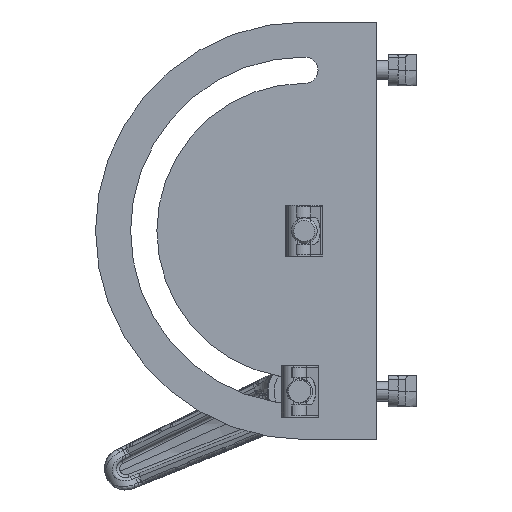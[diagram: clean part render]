
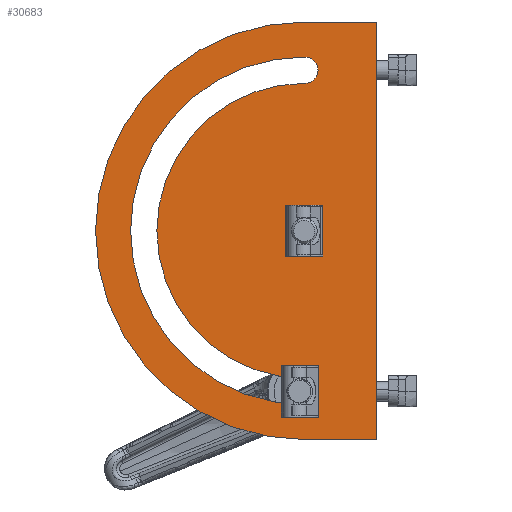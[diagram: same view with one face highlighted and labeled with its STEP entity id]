
A CAD part, left-side view. The second image highlights one B-rep face of the part: STEP entity #30683.
In plain terms, the highlighted planar face has unit normal (-1, 0, 0).
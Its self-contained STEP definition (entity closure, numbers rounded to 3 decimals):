
#241 = EDGE_LOOP ( 'NONE', ( #26651, #7934, #51856, #10890, #29301, #27723, #7183, #57430 ) ) ;
#1251 = DIRECTION ( 'NONE',  ( 0., 0., -1. ) ) ;
#1601 = VERTEX_POINT ( 'NONE', #54993 ) ;
#1749 = VERTEX_POINT ( 'NONE', #31968 ) ;
#2832 = DIRECTION ( 'NONE',  ( 1., 0., 0. ) ) ;
#3529 = EDGE_CURVE ( 'NONE', #1601, #27274, #15341, .T. ) ;
#3726 = VERTEX_POINT ( 'NONE', #17872 ) ;
#4543 = DIRECTION ( 'NONE',  ( 0., 0., -1. ) ) ;
#4611 = PLANE ( 'NONE',  #26990 ) ;
#4766 = CARTESIAN_POINT ( 'NONE',  ( 0., 22.5, 54.1 ) ) ;
#5023 = CARTESIAN_POINT ( 'NONE',  ( 0., 22.5, 0. ) ) ;
#5156 = EDGE_CURVE ( 'NONE', #39911, #1601, #35896, .T. ) ;
#5503 = ORIENTED_EDGE ( 'NONE', *, *, #48248, .F. ) ;
#5545 = DIRECTION ( 'NONE',  ( 0., 0., -1. ) ) ;
#5809 = ORIENTED_EDGE ( 'NONE', *, *, #10732, .T. ) ;
#5844 = CARTESIAN_POINT ( 'NONE',  ( 0., 22.348, 50. ) ) ;
#5990 = CARTESIAN_POINT ( 'NONE',  ( 0., 22.348, -50. ) ) ;
#6360 = DIRECTION ( 'NONE',  ( 0., 0., -1. ) ) ;
#7183 = ORIENTED_EDGE ( 'NONE', *, *, #51452, .T. ) ;
#7934 = ORIENTED_EDGE ( 'NONE', *, *, #5156, .T. ) ;
#8082 = EDGE_LOOP ( 'NONE', ( #5809, #10725 ) ) ;
#8404 = AXIS2_PLACEMENT_3D ( 'NONE', #19361, #54356, #9704 ) ;
#8599 = VECTOR ( 'NONE', #47073, 1000. ) ;
#8975 = CIRCLE ( 'NONE', #18285, 54.1 ) ;
#9187 = VERTEX_POINT ( 'NONE', #9725 ) ;
#9425 = VERTEX_POINT ( 'NONE', #53445 ) ;
#9704 = DIRECTION ( 'NONE',  ( 0., 0., -1. ) ) ;
#9725 = CARTESIAN_POINT ( 'NONE',  ( 0., 22.5, -4.05 ) ) ;
#10164 = DIRECTION ( 'NONE',  ( 1., 0., 0. ) ) ;
#10293 = VERTEX_POINT ( 'NONE', #4766 ) ;
#10544 = EDGE_CURVE ( 'NONE', #9425, #30922, #29275, .T. ) ;
#10725 = ORIENTED_EDGE ( 'NONE', *, *, #54726, .T. ) ;
#10732 = EDGE_CURVE ( 'NONE', #56826, #9187, #36598, .T. ) ;
#10890 = ORIENTED_EDGE ( 'NONE', *, *, #29027, .F. ) ;
#11771 = CARTESIAN_POINT ( 'NONE',  ( 0., 2.5, -65. ) ) ;
#11801 = CIRCLE ( 'NONE', #34151, 4.103 ) ;
#14537 = FACE_OUTER_BOUND ( 'NONE', #47975, .T. ) ;
#14584 = AXIS2_PLACEMENT_3D ( 'NONE', #55403, #19805, #6360 ) ;
#15288 = DIRECTION ( 'NONE',  ( 0., 0., -1. ) ) ;
#15341 = CIRCLE ( 'NONE', #35817, 4.103 ) ;
#16073 = AXIS2_PLACEMENT_3D ( 'NONE', #57257, #17000, #31260 ) ;
#17000 = DIRECTION ( 'NONE',  ( 1., 0., 0. ) ) ;
#17702 = AXIS2_PLACEMENT_3D ( 'NONE', #48923, #18568, #4543 ) ;
#17872 = CARTESIAN_POINT ( 'NONE',  ( 0., 22.5, -45.9 ) ) ;
#18285 = AXIS2_PLACEMENT_3D ( 'NONE', #28852, #2832, #25057 ) ;
#18568 = DIRECTION ( 'NONE',  ( 1., 0., 0. ) ) ;
#19153 = DIRECTION ( 'NONE',  ( 1., 0., 0. ) ) ;
#19361 = CARTESIAN_POINT ( 'NONE',  ( 0., 22.5, 0. ) ) ;
#19805 = DIRECTION ( 'NONE',  ( 1., 0., 0. ) ) ;
#20426 = VERTEX_POINT ( 'NONE', #42321 ) ;
#20759 = ORIENTED_EDGE ( 'NONE', *, *, #10544, .T. ) ;
#21783 = LINE ( 'NONE', #26182, #53708 ) ;
#21856 = CARTESIAN_POINT ( 'NONE',  ( 0., 22.5, -54.1 ) ) ;
#22598 = EDGE_CURVE ( 'NONE', #1749, #30922, #44219, .T. ) ;
#23452 = DIRECTION ( 'NONE',  ( 1., 0., 0. ) ) ;
#23677 = DIRECTION ( 'NONE',  ( 1., 0., 0. ) ) ;
#25021 = CIRCLE ( 'NONE', #50152, 4.05 ) ;
#25057 = DIRECTION ( 'NONE',  ( 0., 0., -1. ) ) ;
#26182 = CARTESIAN_POINT ( 'NONE',  ( 0., 2.5, 65. ) ) ;
#26651 = ORIENTED_EDGE ( 'NONE', *, *, #47987, .T. ) ;
#26990 = AXIS2_PLACEMENT_3D ( 'NONE', #50148, #10164, #40224 ) ;
#27274 = VERTEX_POINT ( 'NONE', #29422 ) ;
#27366 = AXIS2_PLACEMENT_3D ( 'NONE', #5023, #23452, #1251 ) ;
#27723 = ORIENTED_EDGE ( 'NONE', *, *, #30936, .T. ) ;
#27960 = CIRCLE ( 'NONE', #17702, 4.103 ) ;
#28852 = CARTESIAN_POINT ( 'NONE',  ( 0., 22.5, 0. ) ) ;
#29027 = EDGE_CURVE ( 'NONE', #3726, #27274, #35455, .T. ) ;
#29275 = LINE ( 'NONE', #11771, #8599 ) ;
#29301 = ORIENTED_EDGE ( 'NONE', *, *, #43648, .T. ) ;
#29422 = CARTESIAN_POINT ( 'NONE',  ( 0., 22.5, 45.9 ) ) ;
#29978 = EDGE_CURVE ( 'NONE', #9425, #34456, #49593, .T. ) ;
#30683 = ADVANCED_FACE ( 'NONE', ( #44603, #14537, #45776 ), #4611, .F. ) ;
#30739 = DIRECTION ( 'NONE',  ( 1., 0., 0. ) ) ;
#30922 = VERTEX_POINT ( 'NONE', #49780 ) ;
#30936 = EDGE_CURVE ( 'NONE', #50303, #20426, #27960, .T. ) ;
#31203 = CARTESIAN_POINT ( 'NONE',  ( 0., 22.5, 4.05 ) ) ;
#31260 = DIRECTION ( 'NONE',  ( 0., 0., -1. ) ) ;
#31968 = CARTESIAN_POINT ( 'NONE',  ( 0., 0., 65. ) ) ;
#32464 = CARTESIAN_POINT ( 'NONE',  ( 0., 22.348, -45.897 ) ) ;
#32747 = CARTESIAN_POINT ( 'NONE',  ( 0., 22.5, 65. ) ) ;
#34151 = AXIS2_PLACEMENT_3D ( 'NONE', #5990, #19153, #37233 ) ;
#34456 = VERTEX_POINT ( 'NONE', #32747 ) ;
#34953 = CIRCLE ( 'NONE', #47091, 4.103 ) ;
#35026 = CARTESIAN_POINT ( 'NONE',  ( 0., 22.348, 54.103 ) ) ;
#35117 = CARTESIAN_POINT ( 'NONE',  ( 0., 22.348, -50. ) ) ;
#35455 = CIRCLE ( 'NONE', #8404, 45.9 ) ;
#35462 = DIRECTION ( 'NONE',  ( 0., 0., -1. ) ) ;
#35817 = AXIS2_PLACEMENT_3D ( 'NONE', #54401, #50321, #15288 ) ;
#35896 = CIRCLE ( 'NONE', #55521, 4.103 ) ;
#36598 = CIRCLE ( 'NONE', #16073, 4.05 ) ;
#37233 = DIRECTION ( 'NONE',  ( 0., 0., -1. ) ) ;
#38440 = ORIENTED_EDGE ( 'NONE', *, *, #29978, .F. ) ;
#39911 = VERTEX_POINT ( 'NONE', #35026 ) ;
#40224 = DIRECTION ( 'NONE',  ( 0., 0., -1. ) ) ;
#41451 = DIRECTION ( 'NONE',  ( 0., 0., -1. ) ) ;
#41632 = CIRCLE ( 'NONE', #14584, 4.103 ) ;
#42321 = CARTESIAN_POINT ( 'NONE',  ( 0., 22.348, -54.103 ) ) ;
#43648 = EDGE_CURVE ( 'NONE', #3726, #50303, #34953, .T. ) ;
#44219 = LINE ( 'NONE', #52994, #48260 ) ;
#44603 = FACE_BOUND ( 'NONE', #241, .T. ) ;
#45776 = FACE_BOUND ( 'NONE', #8082, .T. ) ;
#47073 = DIRECTION ( 'NONE',  ( 0., -1., 0. ) ) ;
#47091 = AXIS2_PLACEMENT_3D ( 'NONE', #35117, #30739, #48548 ) ;
#47912 = DIRECTION ( 'NONE',  ( 1., 0., 0. ) ) ;
#47975 = EDGE_LOOP ( 'NONE', ( #5503, #38440, #20759, #55230 ) ) ;
#47987 = EDGE_CURVE ( 'NONE', #10293, #39911, #41632, .T. ) ;
#48248 = EDGE_CURVE ( 'NONE', #34456, #1749, #21783, .T. ) ;
#48260 = VECTOR ( 'NONE', #35462, 1000. ) ;
#48548 = DIRECTION ( 'NONE',  ( 0., 0., -1. ) ) ;
#48923 = CARTESIAN_POINT ( 'NONE',  ( 0., 22.348, -50. ) ) ;
#49593 = CIRCLE ( 'NONE', #27366, 65. ) ;
#49780 = CARTESIAN_POINT ( 'NONE',  ( 0., 0., -65. ) ) ;
#50148 = CARTESIAN_POINT ( 'NONE',  ( 0., 2.5, 65. ) ) ;
#50152 = AXIS2_PLACEMENT_3D ( 'NONE', #52296, #47912, #5545 ) ;
#50303 = VERTEX_POINT ( 'NONE', #32464 ) ;
#50321 = DIRECTION ( 'NONE',  ( 1., 0., 0. ) ) ;
#51452 = EDGE_CURVE ( 'NONE', #20426, #55935, #11801, .T. ) ;
#51856 = ORIENTED_EDGE ( 'NONE', *, *, #3529, .T. ) ;
#52112 = EDGE_CURVE ( 'NONE', #55935, #10293, #8975, .T. ) ;
#52296 = CARTESIAN_POINT ( 'NONE',  ( 0., 22.5, 0. ) ) ;
#52994 = CARTESIAN_POINT ( 'NONE',  ( 0., 0., 65. ) ) ;
#53445 = CARTESIAN_POINT ( 'NONE',  ( 0., 22.5, -65. ) ) ;
#53708 = VECTOR ( 'NONE', #57096, 1000. ) ;
#54356 = DIRECTION ( 'NONE',  ( 1., 0., 0. ) ) ;
#54401 = CARTESIAN_POINT ( 'NONE',  ( 0., 22.348, 50. ) ) ;
#54726 = EDGE_CURVE ( 'NONE', #9187, #56826, #25021, .T. ) ;
#54993 = CARTESIAN_POINT ( 'NONE',  ( 0., 22.348, 45.897 ) ) ;
#55230 = ORIENTED_EDGE ( 'NONE', *, *, #22598, .F. ) ;
#55403 = CARTESIAN_POINT ( 'NONE',  ( 0., 22.348, 50. ) ) ;
#55521 = AXIS2_PLACEMENT_3D ( 'NONE', #5844, #23677, #41451 ) ;
#55935 = VERTEX_POINT ( 'NONE', #21856 ) ;
#56826 = VERTEX_POINT ( 'NONE', #31203 ) ;
#57096 = DIRECTION ( 'NONE',  ( 0., -1., 0. ) ) ;
#57257 = CARTESIAN_POINT ( 'NONE',  ( 0., 22.5, 0. ) ) ;
#57430 = ORIENTED_EDGE ( 'NONE', *, *, #52112, .T. ) ;
